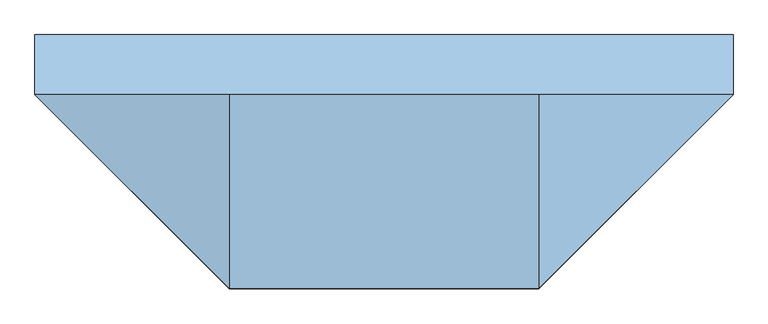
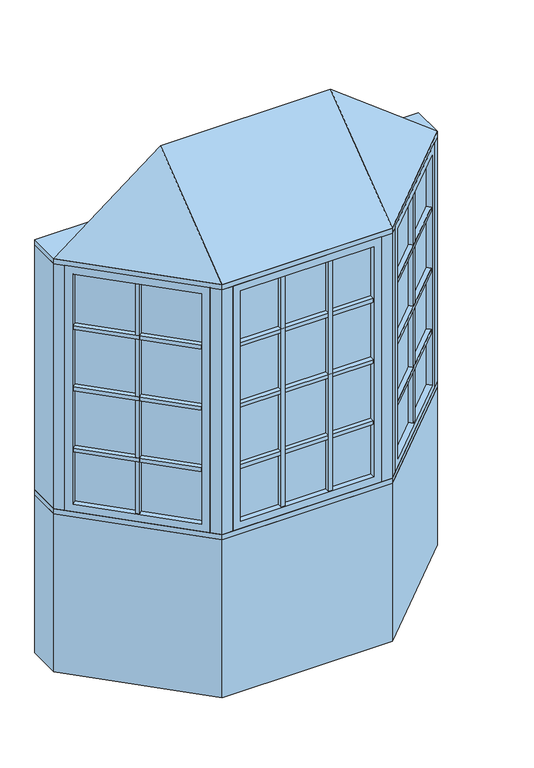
"""IFC4 building model written with IfcOpenShell, lengths in millimetres: window geometry, Pollard_Windows_Tudor Casement Bows and Bays : AML-BAY 45 AFR0512-08-600_GC."""

from ifc_helpers import new_model, si_unit, frame, origin, origin_with_axes, place, context, project, spatial, polyline, outline, extrude, faceted_brep, source, transform, mapped, element, save


def window_0839f293(model_context):
    return source(origin(), model_context, "Body", "SolidModel", [
        extrude(outline(polyline([(453.0114193, -506.9608753), (437.4550701, -491.4045261), (815.116171, -113.7434252), (830.6725202, -129.2997743), (453.0114193, -506.9608753)])), frame((0.0, 0.0, 1390.998), z_axis=(0.0, 0.0, 1.0), x_axis=(1.0, 0.0, 0.0)), (0.0, 0.0, 1.0), 18.0),
        extrude(outline(polyline([(433.8629677, -487.8124236), (418.3066185, -472.2560744), (795.9677194, -94.5949735), (811.5240686, -110.1513227), (433.8629677, -487.8124236)])), frame((0.0, 0.0, 1390.998), z_axis=(0.0, 0.0, 1.0), x_axis=(1.0, 0.0, 0.0)), (0.0, 0.0, 1.0), 18.0),
        extrude(outline(polyline([(453.0114193, -506.9608753), (437.4550701, -491.4045261), (815.116171, -113.7434252), (830.6725202, -129.2997743), (453.0114193, -506.9608753)])), frame((0.0, 0.0, 1090.998), z_axis=(0.0, 0.0, 1.0), x_axis=(1.0, 0.0, 0.0)), (0.0, 0.0, 1.0), 18.0),
        extrude(outline(polyline([(433.8629677, -487.8124236), (418.3066185, -472.2560744), (795.9677194, -94.5949735), (811.5240686, -110.1513227), (433.8629677, -487.8124236)])), frame((0.0, 0.0, 1090.998), z_axis=(0.0, 0.0, 1.0), x_axis=(1.0, 0.0, 0.0)), (0.0, 0.0, 1.0), 18.0),
        extrude(outline(polyline([(453.0114193, -506.9608753), (437.4550701, -491.4045261), (815.116171, -113.7434252), (830.6725202, -129.2997743), (453.0114193, -506.9608753)])), frame((0.0, 0.0, 1390.998), z_axis=(0.0, 0.0, 1.0), x_axis=(1.0, 0.0, 0.0)), (0.0, 0.0, 1.0), 18.0),
        extrude(outline(polyline([(433.8629677, -487.8124236), (418.3066185, -472.2560744), (795.9677194, -94.5949735), (811.5240686, -110.1513227), (433.8629677, -487.8124236)])), frame((0.0, 0.0, 1390.998), z_axis=(0.0, 0.0, 1.0), x_axis=(1.0, 0.0, 0.0)), (0.0, 0.0, 1.0), 18.0),
        extrude(outline(polyline([(453.0114193, -506.9608753), (437.4550701, -491.4045261), (815.116171, -113.7434252), (830.6725202, -129.2997743), (453.0114193, -506.9608753)])), frame((0.0, 0.0, 1390.998), z_axis=(0.0, 0.0, 1.0), x_axis=(1.0, 0.0, 0.0)), (0.0, 0.0, 1.0), 18.0),
        extrude(outline(polyline([(433.8629677, -487.8124236), (418.3066185, -472.2560744), (795.9677194, -94.5949735), (811.5240686, -110.1513227), (433.8629677, -487.8124236)])), frame((0.0, 0.0, 1390.998), z_axis=(0.0, 0.0, 1.0), x_axis=(1.0, 0.0, 0.0)), (0.0, 0.0, 1.0), 18.0),
        extrude(outline(polyline([(453.0114193, -506.9608753), (437.4550701, -491.4045261), (815.116171, -113.7434252), (830.6725202, -129.2997743), (453.0114193, -506.9608753)])), frame((0.0, 0.0, 1690.998), z_axis=(0.0, 0.0, 1.0), x_axis=(1.0, 0.0, 0.0)), (0.0, 0.0, 1.0), 18.0),
        extrude(outline(polyline([(433.8629677, -487.8124236), (418.3066185, -472.2560744), (795.9677194, -94.5949735), (811.5240686, -110.1513227), (433.8629677, -487.8124236)])), frame((0.0, 0.0, 1690.998), z_axis=(0.0, 0.0, 1.0), x_axis=(1.0, 0.0, 0.0)), (0.0, 0.0, 1.0), 18.0),
        extrude(outline(polyline([(632.6495816, -296.2100146), (648.2059308, -311.7663638), (635.4780087, -324.4942858), (619.9216595, -308.9379366), (632.6495816, -296.2100146)])), frame((0.0, 0.0, 835.8628), z_axis=(0.0, 0.0, 1.0), x_axis=(1.0, 0.0, 0.0)), (0.0, 0.0, 1.0), 1128.2704),
        extrude(outline(polyline([(629.0574791, -292.6179121), (616.3295571, -305.3458342), (600.7732079, -289.789485), (613.50113, -277.0615629), (629.0574791, -292.6179121)])), frame((0.0, 0.0, 835.8628), z_axis=(0.0, 0.0, 1.0), x_axis=(1.0, 0.0, 0.0)), (0.0, 0.0, 1.0), 1128.2704),
        extrude(outline(polyline([(824.0964271, -104.763169), (428.474814, -500.3847822), (424.8827115, -496.7926797), (820.5043247, -101.1710666), (824.0964271, -104.763169)])), frame((0.0, 0.0, 823.1628), z_axis=(0.0, 0.0, 1.0), x_axis=(1.0, 0.0, 0.0)), (0.0, 0.0, 1.0), 1153.6704),
        faceted_brep([(815.116171, -113.7434252, 835.8628), (833.0766833, -131.7039374, 835.8628), (833.0766833, -131.7039374, 1964.1332), (815.116171, -113.7434252, 1964.1332), (820.5043247, -101.1710666, 823.1628), (824.0964271, -104.763169, 823.1628), (824.0964271, -104.763169, 1976.8332), (820.5043247, -101.1710666, 1976.8332), (793.5635563, -92.1908105, 835.8628), (811.5240686, -110.1513227, 835.8628), (811.5240686, -110.1513227, 1964.1332), (793.5635563, -92.1908105, 1964.1332), (858.4369265, -106.3436941, 799.998), (818.9237996, -66.8305672, 799.998), (818.9237996, -66.8305672, 1999.998), (858.4369265, -106.3436941, 1999.998), (455.4155823, -509.3650383, 1964.1332), (437.4550701, -491.4045261, 1964.1332), (428.474814, -500.3847822, 1976.8332), (424.8827115, -496.7926797, 1976.8332), (433.8629677, -487.8124236, 1964.1332), (415.9024554, -469.8519114, 1964.1332), (390.5422121, -495.2121547, 1999.998), (430.0553391, -534.7252816, 1999.998), (455.4155823, -509.3650383, 835.8628), (437.4550701, -491.4045261, 835.8628), (428.474814, -500.3847822, 823.1628), (424.8827115, -496.7926797, 823.1628), (433.8629677, -487.8124236, 835.8628), (415.9024554, -469.8519114, 835.8628), (390.5422121, -495.2121547, 799.998), (430.0553391, -534.7252816, 799.998)], [[[0, 1, 2, 3]], [[4, 5, 6, 7]], [[8, 9, 10, 11]], [[12, 13, 14, 15]], [[3, 2, 16, 17]], [[7, 6, 18, 19]], [[11, 10, 20, 21]], [[15, 14, 22, 23]], [[17, 16, 24, 25]], [[19, 18, 26, 27]], [[21, 20, 28, 29]], [[23, 22, 30, 31]], [[25, 24, 1, 0]], [[5, 26, 18, 6], [3, 17, 25, 0]], [[27, 26, 5, 4]], [[7, 19, 27, 4], [9, 28, 20, 10]], [[29, 28, 9, 8]], [[13, 30, 22, 14], [11, 21, 29, 8]], [[31, 30, 13, 12]], [[15, 23, 31, 12], [1, 24, 16, 2]]]),
        extrude(outline(polyline([(119.1785333, -544.6806207), (119.1785333, -566.6806207), (101.1785333, -566.6806207), (101.1785333, -544.6806207), (119.1785333, -544.6806207)])), frame((0.0, 0.0, 835.8628), z_axis=(0.0, 0.0, 1.0), x_axis=(1.0, 0.0, 0.0)), (0.0, 0.0, 1.0), 1128.2704),
        extrude(outline(polyline([(119.1785333, -539.6006207), (101.1785333, -539.6006207), (101.1785333, -517.6006207), (119.1785333, -517.6006207), (119.1785333, -539.6006207)])), frame((0.0, 0.0, 835.8628), z_axis=(0.0, 0.0, 1.0), x_axis=(1.0, 0.0, 0.0)), (0.0, 0.0, 1.0), 1128.2704),
        extrude(outline(polyline([(-101.1785333, -544.6806207), (-101.1785333, -566.6806207), (-119.1785333, -566.6806207), (-119.1785333, -544.6806207), (-101.1785333, -544.6806207)])), frame((0.0, 0.0, 835.8628), z_axis=(0.0, 0.0, 1.0), x_axis=(1.0, 0.0, 0.0)), (0.0, 0.0, 1.0), 1128.2704),
        extrude(outline(polyline([(-101.1785333, -539.6006207), (-119.1785333, -539.6006207), (-119.1785333, -517.6006207), (-101.1785333, -517.6006207), (-101.1785333, -539.6006207)])), frame((0.0, 0.0, 835.8628), z_axis=(0.0, 0.0, 1.0), x_axis=(1.0, 0.0, 0.0)), (0.0, 0.0, 1.0), 1128.2704),
        extrude(outline(polyline([(-308.8352, -566.6806207), (-308.8352, -544.6806207), (308.8352, -544.6806207), (308.8352, -566.6806207), (-308.8352, -566.6806207)])), frame((0.0, 0.0, 1090.998), z_axis=(0.0, 0.0, 1.0), x_axis=(1.0, 0.0, 0.0)), (0.0, 0.0, 1.0), 18.0),
        extrude(outline(polyline([(-308.8352, -539.6006207), (-308.8352, -517.6006207), (308.8352, -517.6006207), (308.8352, -539.6006207), (-308.8352, -539.6006207)])), frame((0.0, 0.0, 1090.998), z_axis=(0.0, 0.0, 1.0), x_axis=(1.0, 0.0, 0.0)), (0.0, 0.0, 1.0), 18.0),
        extrude(outline(polyline([(-308.8352, -566.6806207), (-308.8352, -544.6806207), (308.8352, -544.6806207), (308.8352, -566.6806207), (-308.8352, -566.6806207)])), frame((0.0, 0.0, 1390.998), z_axis=(0.0, 0.0, 1.0), x_axis=(1.0, 0.0, 0.0)), (0.0, 0.0, 1.0), 18.0),
        extrude(outline(polyline([(-308.8352, -539.6006207), (-308.8352, -517.6006207), (308.8352, -517.6006207), (308.8352, -539.6006207), (-308.8352, -539.6006207)])), frame((0.0, 0.0, 1390.998), z_axis=(0.0, 0.0, 1.0), x_axis=(1.0, 0.0, 0.0)), (0.0, 0.0, 1.0), 18.0),
        extrude(outline(polyline([(-308.8352, -566.6806207), (-308.8352, -544.6806207), (308.8352, -544.6806207), (308.8352, -566.6806207), (-308.8352, -566.6806207)])), frame((0.0, 0.0, 1390.998), z_axis=(0.0, 0.0, 1.0), x_axis=(1.0, 0.0, 0.0)), (0.0, 0.0, 1.0), 18.0),
        extrude(outline(polyline([(-308.8352, -539.6006207), (-308.8352, -517.6006207), (308.8352, -517.6006207), (308.8352, -539.6006207), (-308.8352, -539.6006207)])), frame((0.0, 0.0, 1390.998), z_axis=(0.0, 0.0, 1.0), x_axis=(1.0, 0.0, 0.0)), (0.0, 0.0, 1.0), 18.0),
        extrude(outline(polyline([(-308.8352, -566.6806207), (-308.8352, -544.6806207), (308.8352, -544.6806207), (308.8352, -566.6806207), (-308.8352, -566.6806207)])), frame((0.0, 0.0, 1390.998), z_axis=(0.0, 0.0, 1.0), x_axis=(1.0, 0.0, 0.0)), (0.0, 0.0, 1.0), 18.0),
        extrude(outline(polyline([(-308.8352, -539.6006207), (-308.8352, -517.6006207), (308.8352, -517.6006207), (308.8352, -539.6006207), (-308.8352, -539.6006207)])), frame((0.0, 0.0, 1390.998), z_axis=(0.0, 0.0, 1.0), x_axis=(1.0, 0.0, 0.0)), (0.0, 0.0, 1.0), 18.0),
        extrude(outline(polyline([(-830.6725202, -129.2997743), (-815.116171, -113.7434252), (-437.4550701, -491.4045261), (-453.0114193, -506.9608753), (-830.6725202, -129.2997743)])), frame((0.0, 0.0, 1090.998), z_axis=(0.0, 0.0, 1.0), x_axis=(1.0, 0.0, 0.0)), (0.0, 0.0, 1.0), 18.0),
        extrude(outline(polyline([(-811.5240686, -110.1513227), (-795.9677194, -94.5949735), (-418.3066185, -472.2560744), (-433.8629677, -487.8124236), (-811.5240686, -110.1513227)])), frame((0.0, 0.0, 1090.998), z_axis=(0.0, 0.0, 1.0), x_axis=(1.0, 0.0, 0.0)), (0.0, 0.0, 1.0), 18.0),
        extrude(outline(polyline([(-830.6725202, -129.2997743), (-815.116171, -113.7434252), (-437.4550701, -491.4045261), (-453.0114193, -506.9608753), (-830.6725202, -129.2997743)])), frame((0.0, 0.0, 1390.998), z_axis=(0.0, 0.0, 1.0), x_axis=(1.0, 0.0, 0.0)), (0.0, 0.0, 1.0), 18.0),
        extrude(outline(polyline([(-811.5240686, -110.1513227), (-795.9677194, -94.5949735), (-418.3066185, -472.2560744), (-433.8629677, -487.8124236), (-811.5240686, -110.1513227)])), frame((0.0, 0.0, 1390.998), z_axis=(0.0, 0.0, 1.0), x_axis=(1.0, 0.0, 0.0)), (0.0, 0.0, 1.0), 18.0),
        extrude(outline(polyline([(-830.6725202, -129.2997743), (-815.116171, -113.7434252), (-437.4550701, -491.4045261), (-453.0114193, -506.9608753), (-830.6725202, -129.2997743)])), frame((0.0, 0.0, 1390.998), z_axis=(0.0, 0.0, 1.0), x_axis=(1.0, 0.0, 0.0)), (0.0, 0.0, 1.0), 18.0),
        extrude(outline(polyline([(-811.5240686, -110.1513227), (-795.9677194, -94.5949735), (-418.3066185, -472.2560744), (-433.8629677, -487.8124236), (-811.5240686, -110.1513227)])), frame((0.0, 0.0, 1390.998), z_axis=(0.0, 0.0, 1.0), x_axis=(1.0, 0.0, 0.0)), (0.0, 0.0, 1.0), 18.0),
        extrude(outline(polyline([(-830.6725202, -129.2997743), (-815.116171, -113.7434252), (-437.4550701, -491.4045261), (-453.0114193, -506.9608753), (-830.6725202, -129.2997743)])), frame((0.0, 0.0, 1390.998), z_axis=(0.0, 0.0, 1.0), x_axis=(1.0, 0.0, 0.0)), (0.0, 0.0, 1.0), 18.0),
        extrude(outline(polyline([(-811.5240686, -110.1513227), (-795.9677194, -94.5949735), (-418.3066185, -472.2560744), (-433.8629677, -487.8124236), (-811.5240686, -110.1513227)])), frame((0.0, 0.0, 1390.998), z_axis=(0.0, 0.0, 1.0), x_axis=(1.0, 0.0, 0.0)), (0.0, 0.0, 1.0), 18.0),
        extrude(outline(polyline([(-830.6725202, -129.2997743), (-815.116171, -113.7434252), (-437.4550701, -491.4045261), (-453.0114193, -506.9608753), (-830.6725202, -129.2997743)])), frame((0.0, 0.0, 1690.998), z_axis=(0.0, 0.0, 1.0), x_axis=(1.0, 0.0, 0.0)), (0.0, 0.0, 1.0), 18.0),
        extrude(outline(polyline([(-811.5240686, -110.1513227), (-795.9677194, -94.5949735), (-418.3066185, -472.2560744), (-433.8629677, -487.8124236), (-811.5240686, -110.1513227)])), frame((0.0, 0.0, 1690.998), z_axis=(0.0, 0.0, 1.0), x_axis=(1.0, 0.0, 0.0)), (0.0, 0.0, 1.0), 18.0),
        extrude(outline(polyline([(-308.8352, -566.6806207), (-308.8352, -544.6806207), (308.8352, -544.6806207), (308.8352, -566.6806207), (-308.8352, -566.6806207)])), frame((0.0, 0.0, 1690.998), z_axis=(0.0, 0.0, 1.0), x_axis=(1.0, 0.0, 0.0)), (0.0, 0.0, 1.0), 18.0),
        extrude(outline(polyline([(-308.8352, -539.6006207), (-308.8352, -517.6006207), (308.8352, -517.6006207), (308.8352, -539.6006207), (-308.8352, -539.6006207)])), frame((0.0, 0.0, 1690.998), z_axis=(0.0, 0.0, 1.0), x_axis=(1.0, 0.0, 0.0)), (0.0, 0.0, 1.0), 18.0),
        extrude(outline(polyline([(-619.9216595, -308.9379366), (-635.4780087, -324.4942858), (-648.2059308, -311.7663638), (-632.6495816, -296.2100146), (-619.9216595, -308.9379366)])), frame((0.0, 0.0, 835.8628), z_axis=(0.0, 0.0, 1.0), x_axis=(1.0, 0.0, 0.0)), (0.0, 0.0, 1.0), 1128.2704),
        extrude(outline(polyline([(-616.3295571, -305.3458342), (-629.0574791, -292.6179121), (-613.50113, -277.0615629), (-600.7732079, -289.789485), (-616.3295571, -305.3458342)])), frame((0.0, 0.0, 835.8628), z_axis=(0.0, 0.0, 1.0), x_axis=(1.0, 0.0, 0.0)), (0.0, 0.0, 1.0), 1128.2704),
        extrude(outline(polyline([(-428.474814, -500.3847822), (-824.0964271, -104.763169), (-820.5043247, -101.1710666), (-424.8827115, -496.7926797), (-428.474814, -500.3847822)])), frame((0.0, 0.0, 823.1628), z_axis=(0.0, 0.0, 1.0), x_axis=(1.0, 0.0, 0.0)), (0.0, 0.0, 1.0), 1153.6704),
        faceted_brep([(-433.8629677, -487.8124236, 1964.1332), (-415.9024554, -469.8519114, 1964.1332), (-415.9024554, -469.8519114, 835.8628), (-433.8629677, -487.8124236, 835.8628), (-428.474814, -500.3847822, 1976.8332), (-424.8827115, -496.7926797, 1976.8332), (-424.8827115, -496.7926797, 823.1628), (-428.474814, -500.3847822, 823.1628), (-455.4155823, -509.3650383, 1964.1332), (-437.4550701, -491.4045261, 1964.1332), (-437.4550701, -491.4045261, 835.8628), (-455.4155823, -509.3650383, 835.8628), (-390.5422121, -495.2121547, 1999.998), (-430.0553391, -534.7252816, 1999.998), (-430.0553391, -534.7252816, 799.998), (-390.5422121, -495.2121547, 799.998), (-793.5635563, -92.1908105, 835.8628), (-811.5240686, -110.1513227, 835.8628), (-820.5043247, -101.1710666, 823.1628), (-824.0964271, -104.763169, 823.1628), (-815.116171, -113.7434252, 835.8628), (-833.0766833, -131.7039374, 835.8628), (-858.4369265, -106.3436941, 799.998), (-818.9237996, -66.8305672, 799.998), (-793.5635563, -92.1908105, 1964.1332), (-811.5240686, -110.1513227, 1964.1332), (-820.5043247, -101.1710666, 1976.8332), (-824.0964271, -104.763169, 1976.8332), (-815.116171, -113.7434252, 1964.1332), (-833.0766833, -131.7039374, 1964.1332), (-858.4369265, -106.3436941, 1999.998), (-818.9237996, -66.8305672, 1999.998)], [[[0, 1, 2, 3]], [[4, 5, 6, 7]], [[8, 9, 10, 11]], [[12, 13, 14, 15]], [[3, 2, 16, 17]], [[7, 6, 18, 19]], [[11, 10, 20, 21]], [[15, 14, 22, 23]], [[17, 16, 24, 25]], [[19, 18, 26, 27]], [[21, 20, 28, 29]], [[23, 22, 30, 31]], [[15, 23, 31, 12], [1, 24, 16, 2]], [[25, 24, 1, 0]], [[5, 26, 18, 6], [3, 17, 25, 0]], [[27, 26, 5, 4]], [[7, 19, 27, 4], [9, 28, 20, 10]], [[29, 28, 9, 8]], [[13, 30, 22, 14], [11, 21, 29, 8]], [[31, 30, 13, 12]]]),
        extrude(outline(polyline([(321.5352, -544.6806207), (-321.5352, -544.6806207), (-321.5352, -539.6006207), (321.5352, -539.6006207), (321.5352, -544.6806207)])), frame((0.0, 0.0, 823.1628), z_axis=(0.0, 0.0, 1.0), x_axis=(1.0, 0.0, 0.0)), (0.0, 0.0, 1.0), 1153.6704),
        faceted_brep([(308.8352, -544.6806207, 835.8628), (308.8352, -570.0806207, 835.8628), (308.8352, -570.0806207, 1964.1332), (308.8352, -544.6806207, 1964.1332), (321.5352, -539.6006207, 823.1628), (321.5352, -544.6806207, 823.1628), (321.5352, -544.6806207, 1976.8332), (321.5352, -539.6006207, 1976.8332), (308.8352, -514.2006207, 835.8628), (308.8352, -539.6006207, 835.8628), (308.8352, -539.6006207, 1964.1332), (308.8352, -514.2006207, 1964.1332), (344.7, -570.0806207, 799.998), (344.7, -514.2006207, 799.998), (344.7, -514.2006207, 1999.998), (344.7, -570.0806207, 1999.998), (-308.8352, -570.0806207, 1964.1332), (-308.8352, -544.6806207, 1964.1332), (-321.5352, -544.6806207, 1976.8332), (-321.5352, -539.6006207, 1976.8332), (-308.8352, -539.6006207, 1964.1332), (-308.8352, -514.2006207, 1964.1332), (-344.7, -514.2006207, 1999.998), (-344.7, -570.0806207, 1999.998), (-308.8352, -570.0806207, 835.8628), (-308.8352, -544.6806207, 835.8628), (-321.5352, -544.6806207, 823.1628), (-321.5352, -539.6006207, 823.1628), (-308.8352, -539.6006207, 835.8628), (-308.8352, -514.2006207, 835.8628), (-344.7, -514.2006207, 799.998), (-344.7, -570.0806207, 799.998)], [[[0, 1, 2, 3]], [[4, 5, 6, 7]], [[8, 9, 10, 11]], [[12, 13, 14, 15]], [[3, 2, 16, 17]], [[7, 6, 18, 19]], [[11, 10, 20, 21]], [[15, 14, 22, 23]], [[17, 16, 24, 25]], [[19, 18, 26, 27]], [[21, 20, 28, 29]], [[23, 22, 30, 31]], [[15, 23, 31, 12], [1, 24, 16, 2]], [[25, 24, 1, 0]], [[5, 26, 18, 6], [3, 17, 25, 0]], [[27, 26, 5, 4]], [[7, 19, 27, 4], [9, 28, 20, 10]], [[29, 28, 9, 8]], [[13, 30, 22, 14], [11, 21, 29, 8]], [[31, 30, 13, 12]]]),
        faceted_brep([(890.0, -74.7806207, 2025.398), (394.7, -570.0806207, 2025.398), (-394.7, -570.0806207, 2025.398), (-890.0, -74.7806207, 2025.398), (-394.7, -74.7806207, 2406.398), (394.7, -74.7806207, 2406.398)], [[[0, 1, 2, 3]], [[3, 2, 4]], [[2, 1, 5, 4]], [[1, 0, 5]], [[0, 3, 4, 5]]]),
        extrude(outline(polyline([(-890.0, 77.6193793), (890.0, 77.6193793), (890.0, -74.7806207), (394.7, -570.0806207), (-394.7, -570.0806207), (-890.0, -74.7806207), (-890.0, 77.6193793)])), frame((0.0, 0.0, 1999.998), z_axis=(0.0, 0.0, 1.0), x_axis=(1.0, 0.0, 0.0)), (0.0, 0.0, 1.0), 25.4),
        extrude(outline(polyline([(-890.0, -74.7806207), (-890.0, 77.6193793), (-826.8738531, 77.6193793), (-826.8738531, -74.7806207), (-858.4369265, -106.3436941), (-890.0, -74.7806207)])), frame((0.0, 0.0, 799.998), z_axis=(0.0, 0.0, 1.0), x_axis=(1.0, 0.0, 0.0)), (0.0, 0.0, 1.0), 1200.0),
        extrude(outline(polyline([(890.0, 77.6193793), (890.0, -74.7806207), (858.4369265, -106.3436941), (826.8738531, -74.7806207), (826.8738531, 77.6193793), (890.0, 77.6193793)])), frame((0.0, 0.0, 799.998), z_axis=(0.0, 0.0, 1.0), x_axis=(1.0, 0.0, 0.0)), (0.0, 0.0, 1.0), 1200.0),
        extrude(outline(polyline([(394.7, -570.0806207), (344.7, -570.0806207), (344.7, -520.0806207), (373.9893219, -520.0806207), (394.7, -499.3699425), (430.0553391, -534.7252816), (394.7, -570.0806207)])), frame((0.0, 0.0, 799.998), z_axis=(0.0, 0.0, 1.0), x_axis=(1.0, 0.0, 0.0)), (0.0, 0.0, 1.0), 1200.0),
        extrude(outline(polyline([(-394.7, -570.0806207), (-430.0553391, -534.7252816), (-394.7, -499.3699425), (-373.9893219, -520.0806207), (-344.7, -520.0806207), (-344.7, -570.0806207), (-394.7, -570.0806207)])), frame((0.0, 0.0, 799.998), z_axis=(0.0, 0.0, 1.0), x_axis=(1.0, 0.0, 0.0)), (0.0, 0.0, 1.0), 1200.0),
        extrude(outline(polyline([(-394.7, -570.0806207), (-890.0, -74.7806207), (-890.0, 77.6193793), (-826.8738531, 77.6193793), (-331.5738531, -417.6806207), (331.5738531, -417.6806207), (826.8738531, 77.6193793), (890.0, 77.6193793), (890.0, -74.7806207), (394.7, -570.0806207), (-394.7, -570.0806207)])), frame((0.0, 0.0, 774.598), z_axis=(0.0, 0.0, 1.0), x_axis=(1.0, 0.0, 0.0)), (0.0, 0.0, 1.0), 25.4),
        extrude(outline(polyline([(-890.0, -74.7806207), (-890.0, 77.6193793), (-826.8738531, 77.6193793), (-331.5738531, -417.6806207), (331.5738531, -417.6806207), (826.8738531, 77.6193793), (890.0, 77.6193793), (890.0, -74.7806207), (394.7, -570.0806207), (-394.7, -570.0806207), (-890.0, -74.7806207)])), origin_with_axes(), (0.0, 0.0, 1.0), 774.598),
    ])


if __name__ == "__main__":
    model = new_model("IFC4")
    model_context = context("Model", 3, world=origin())
    ifc_project = project(units=[si_unit("LENGTHUNIT", "METRE", prefix="MILLI")], contexts=[model_context])
    site = spatial("IfcSite", under=ifc_project)
    building = spatial("IfcBuilding", under=site)
    placement = place(None, origin())
    window_shape = window_0839f293(model_context)
    element("IfcWindow", 1, ObjectType="Pollard_Windows_Tudor Casement Bows and Bays : AML-BAY 45 AFR0512-08-600_GC", at=placement, inside=building, context=model_context, shape_type="MappedRepresentation", body=[
        mapped(window_shape, transform((0.0, 0.0, 0.0), x_axis=(1.0, 0.0, 0.0), y_axis=(0.0, 1.0, 0.0), z_axis=(0.0, 0.0, 1.0))),
    ])
    save(model, "model.ifc")
